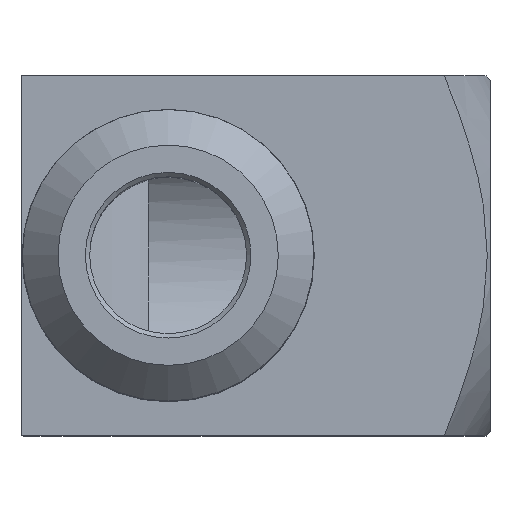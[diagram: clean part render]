
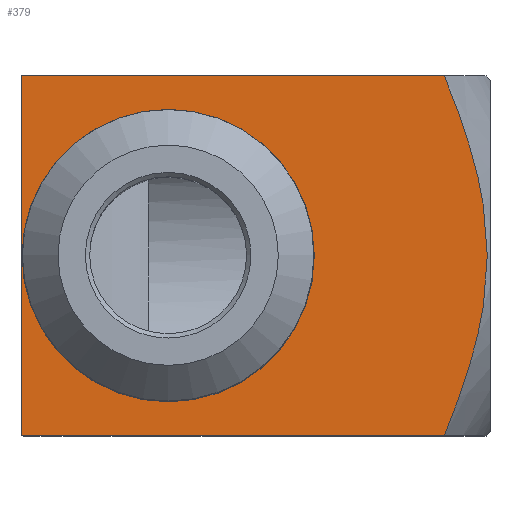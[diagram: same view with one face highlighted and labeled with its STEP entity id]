
A CAD part, top view. The second image highlights one B-rep face of the part: STEP entity #379.
In plain terms, the highlighted planar face has unit normal (0, 0, 1).
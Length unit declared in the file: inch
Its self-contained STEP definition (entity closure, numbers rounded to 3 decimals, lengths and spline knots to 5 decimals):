
#16=(
BOUNDED_CURVE()
B_SPLINE_CURVE(2,(#728,#729,#730),.UNSPECIFIED.,.F.,.F.)
B_SPLINE_CURVE_WITH_KNOTS((3,3),(0.,0.65291),.UNSPECIFIED.)
CURVE()
GEOMETRIC_REPRESENTATION_ITEM()
RATIONAL_B_SPLINE_CURVE((1.,1.207,1.207))
REPRESENTATION_ITEM('')
);
#17=(
BOUNDED_CURVE()
B_SPLINE_CURVE(2,(#732,#733,#734),.UNSPECIFIED.,.F.,.F.)
B_SPLINE_CURVE_WITH_KNOTS((3,3),(0.65291,1.30581),
 .UNSPECIFIED.)
CURVE()
GEOMETRIC_REPRESENTATION_ITEM()
RATIONAL_B_SPLINE_CURVE((1.207,1.207,1.))
REPRESENTATION_ITEM('')
);
#37=PLANE('',#437);
#64=FACE_OUTER_BOUND('',#90,.T.);
#90=EDGE_LOOP('',(#330,#331,#332,#333,#334,#335,#336));
#103=LINE('',#696,#123);
#104=LINE('',#698,#124);
#107=LINE('',#707,#127);
#111=LINE('',#731,#131);
#123=VECTOR('',#510,0.3937);
#124=VECTOR('',#511,0.3937);
#127=VECTOR('',#516,0.3937);
#131=VECTOR('',#542,0.3937);
#155=CIRCLE('',#435,0.203);
#180=VERTEX_POINT('',#693);
#181=VERTEX_POINT('',#695);
#182=VERTEX_POINT('',#697);
#184=VERTEX_POINT('',#703);
#189=VERTEX_POINT('',#726);
#190=VERTEX_POINT('',#727);
#225=EDGE_CURVE('',#180,#181,#103,.T.);
#226=EDGE_CURVE('',#181,#182,#104,.T.);
#230=EDGE_CURVE('',#184,#180,#107,.T.);
#238=EDGE_CURVE('',#181,#181,#155,.T.);
#239=EDGE_CURVE('',#189,#190,#16,.T.);
#240=EDGE_CURVE('',#189,#182,#111,.T.);
#241=EDGE_CURVE('',#190,#184,#17,.T.);
#330=ORIENTED_EDGE('',*,*,#239,.F.);
#331=ORIENTED_EDGE('',*,*,#240,.T.);
#332=ORIENTED_EDGE('',*,*,#226,.F.);
#333=ORIENTED_EDGE('',*,*,#238,.T.);
#334=ORIENTED_EDGE('',*,*,#225,.F.);
#335=ORIENTED_EDGE('',*,*,#230,.F.);
#336=ORIENTED_EDGE('',*,*,#241,.F.);
#379=ADVANCED_FACE('',(#64),#37,.F.);
#435=AXIS2_PLACEMENT_3D('',#723,#536,#537);
#437=AXIS2_PLACEMENT_3D('',#725,#540,#541);
#510=DIRECTION('',(0.,1.,0.));
#511=DIRECTION('',(0.,1.,0.));
#516=DIRECTION('',(-1.,0.,0.));
#536=DIRECTION('center_axis',(0.,0.,-1.));
#537=DIRECTION('ref_axis',(1.,0.,0.));
#540=DIRECTION('center_axis',(0.,0.,-1.));
#541=DIRECTION('ref_axis',(0.,-1.,0.));
#542=DIRECTION('',(-1.,0.,0.));
#693=CARTESIAN_POINT('',(-0.203,-0.25,0.25));
#695=CARTESIAN_POINT('',(-0.203,0.,0.25));
#696=CARTESIAN_POINT('',(-0.203,0.125,0.25));
#697=CARTESIAN_POINT('',(-0.203,0.25,0.25));
#698=CARTESIAN_POINT('',(-0.203,0.125,0.25));
#703=CARTESIAN_POINT('',(0.38349,-0.25,0.25));
#707=CARTESIAN_POINT('',(0.,-0.25,0.25));
#723=CARTESIAN_POINT('Origin',(0.,0.,0.25));
#725=CARTESIAN_POINT('Origin',(0.447,0.25,0.25));
#726=CARTESIAN_POINT('',(0.38349,0.25,0.25));
#727=CARTESIAN_POINT('',(0.44328,0.,0.25));
#728=CARTESIAN_POINT('Ctrl Pts',(0.38349,0.25,0.25));
#729=CARTESIAN_POINT('Ctrl Pts',(0.44328,0.10355,0.25));
#730=CARTESIAN_POINT('Ctrl Pts',(0.44328,0.,
0.25));
#731=CARTESIAN_POINT('',(0.,0.25,0.25));
#732=CARTESIAN_POINT('Ctrl Pts',(0.44328,0.,
0.25));
#733=CARTESIAN_POINT('Ctrl Pts',(0.44328,-0.10355,0.25));
#734=CARTESIAN_POINT('Ctrl Pts',(0.38349,-0.25,0.25));
